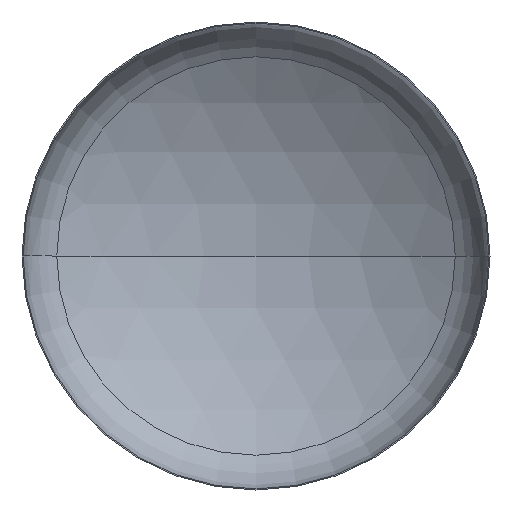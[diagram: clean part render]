
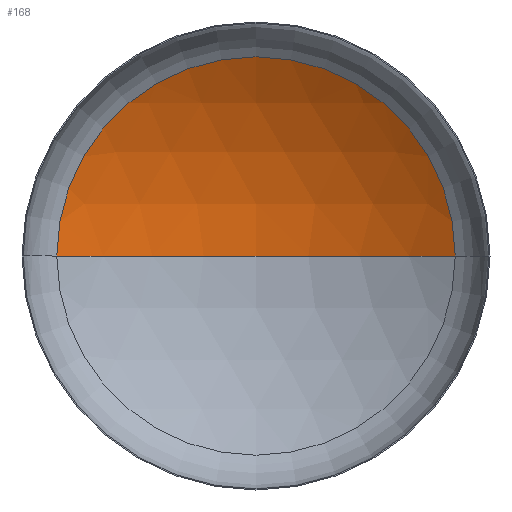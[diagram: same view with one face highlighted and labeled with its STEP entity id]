
A CAD part, front view. The second image highlights one B-rep face of the part: STEP entity #168.
In plain terms, the highlighted spherical face has radius 2880 mm.
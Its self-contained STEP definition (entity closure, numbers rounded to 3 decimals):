
#6 = AXIS2_PLACEMENT_3D ( 'NONE', #154, #157, #143 ) ;
#7 = AXIS2_PLACEMENT_3D ( 'NONE', #63, #231, #405 ) ;
#8 = ORIENTED_EDGE ( 'NONE', *, *, #364, .T. ) ;
#9 = AXIS2_PLACEMENT_3D ( 'NONE', #174, #399, #132 ) ;
#12 = EDGE_LOOP ( 'NONE', ( #64, #52, #8 ) ) ;
#32 = VERTEX_POINT ( 'NONE', #286 ) ;
#52 = ORIENTED_EDGE ( 'NONE', *, *, #352, .T. ) ;
#60 = FACE_OUTER_BOUND ( 'NONE', #12, .T. ) ;
#63 = CARTESIAN_POINT ( 'NONE',  ( 0., 494.928, 0. ) ) ;
#64 = ORIENTED_EDGE ( 'NONE', *, *, #354, .F. ) ;
#71 = VERTEX_POINT ( 'NONE', #243 ) ;
#76 = AXIS2_PLACEMENT_3D ( 'NONE', #199, #315, #295 ) ;
#78 = VERTEX_POINT ( 'NONE', #357 ) ;
#132 = DIRECTION ( 'NONE',  ( -1., 0., 0. ) ) ;
#142 = CIRCLE ( 'NONE', #9, 2880. ) ;
#143 = DIRECTION ( 'NONE',  ( 1., 0., 0. ) ) ;
#154 = CARTESIAN_POINT ( 'NONE',  ( 0., -1943.618, 0. ) ) ;
#157 = DIRECTION ( 'NONE',  ( 0., 0., 1. ) ) ;
#168 = ADVANCED_FACE ( 'NONE', ( #60 ), #176, .F. ) ;
#174 = CARTESIAN_POINT ( 'NONE',  ( 0., -1943.618, 0. ) ) ;
#176 = SPHERICAL_SURFACE ( 'NONE', #76, 2880. ) ;
#196 = CIRCLE ( 'NONE', #7, 1532.284 ) ;
#199 = CARTESIAN_POINT ( 'NONE',  ( 0., -1943.618, 0. ) ) ;
#231 = DIRECTION ( 'NONE',  ( 0., -1., 0. ) ) ;
#243 = CARTESIAN_POINT ( 'NONE',  ( 0., 936.382, 0. ) ) ;
#286 = CARTESIAN_POINT ( 'NONE',  ( -1532.284, 494.928, 0. ) ) ;
#295 = DIRECTION ( 'NONE',  ( -1., 0., 0. ) ) ;
#315 = DIRECTION ( 'NONE',  ( 0., 0., -1. ) ) ;
#352 = EDGE_CURVE ( 'NONE', #71, #78, #142, .T. ) ;
#354 = EDGE_CURVE ( 'NONE', #71, #32, #388, .T. ) ;
#357 = CARTESIAN_POINT ( 'NONE',  ( 1532.284, 494.928, 0. ) ) ;
#364 = EDGE_CURVE ( 'NONE', #78, #32, #196, .T. ) ;
#388 = CIRCLE ( 'NONE', #6, 2880. ) ;
#399 = DIRECTION ( 'NONE',  ( 0., 0., -1. ) ) ;
#405 = DIRECTION ( 'NONE',  ( 1., 0., 0. ) ) ;
